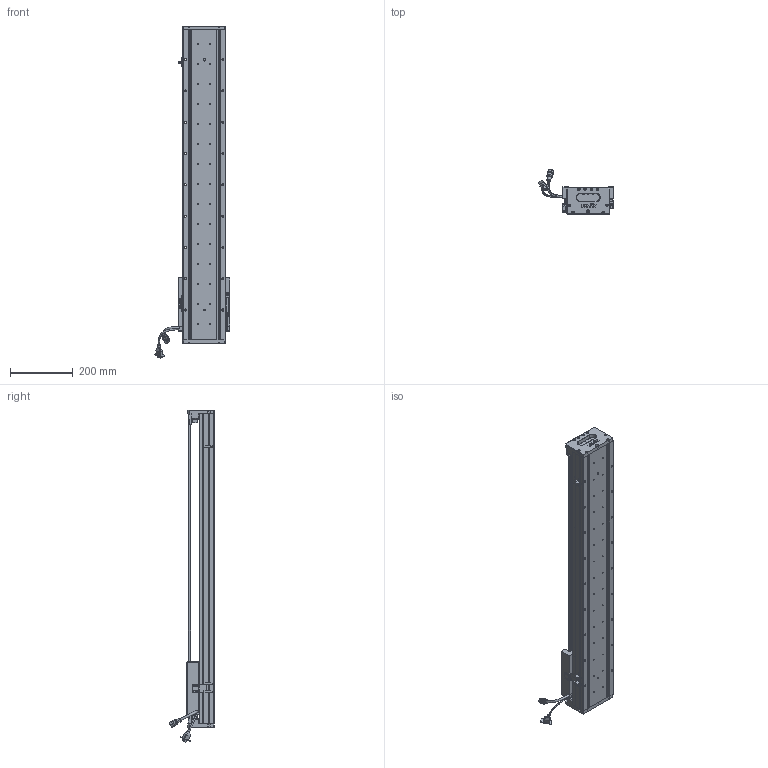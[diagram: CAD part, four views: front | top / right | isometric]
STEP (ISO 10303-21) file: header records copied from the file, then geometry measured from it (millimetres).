
FILE_DESCRIPTION (( 'STEP AP203' ), '1' );
FILE_NAME ('Z2-RY140D-1-L500-B-K.SLDASM_0750.step', '2021-05-17T07:45:20', ( '盈信电脑' ), ( '东莞市道滘镇水果街19号' ), 'SwSTEP 2.0', 'SolidWorks 2016', '' );
FILE_SCHEMA (( 'CONFIG_CONTROL_DESIGN' ));
Length unit declared in the file: millimetre
Products named in the file (36): 080黍杅芛假蚾釱21遴; COVER-Part-1; SEAL-Part-1; 140-Z-臏賑輸盄裔(21遴); SCALE-Part-1; COVER; 榋妏寠巭燃_暯_M2_2; SEAL; HARNESS-Part-2; Z2-RY140D-1-L500-B-K.SLDASM_0750; Z2-RY140-L500直线电机模组底座_0750; SCREW-M1.6-2; HOLDER0; Z2-RY140-L500詩湍100mm遵_0750; 140雄赽晤鎢ん堤盄; SCREW-M1.7; HARNESS; SCALE; SCREW-M1.6; Z-RY140詩湍奻揤裔; SCREW-M1.6-3; PSLH080_PSLF2; Z-RY140詩湍狟揤裔; SHIELDPLATE; SCREW-M1.6-1; HARNESS-Part-1; SCALE-Part-2; LABEL-Part-1; 覜茼ん672; LABEL; 140蚥薯蝶輸; SCREW-M1.7-1; Z2-RY140圉猾敕臏賑輸(21遴); PBU_SHEET; Z-RY140感应器672光电感应片; Z-140詩湍傷裔啣
Assembly tree (41 placements, depth 4):
  Z2-RY140D-1-L500-B-K.SLDASM_0750
    Z2-RY140-L500直线电机模组底座_0750
    Z-RY140感应器672光电感应片
    Z2-RY140圉猾敕臏賑輸(21遴)
    覜茼ん672  x3
    Z2-RY140-L500詩湍100mm遵_0750
    PSLH080_PSLF2
      SCALE
        SCALE-Part-1
        SCALE-Part-2
      HARNESS
        HARNESS-Part-1
        HARNESS-Part-2
      LABEL
        LABEL-Part-1
      COVER
        COVER-Part-1
      SEAL
        SEAL-Part-1
      榋妏寠巭燃_暯_M2_2
      SHIELDPLATE
      SCREW-M1.7
      SCREW-M1.7-1
      PBU_SHEET
      SCREW-M1.6
      SCREW-M1.6-1
      SCREW-M1.6-2
      SCREW-M1.6-3
      HOLDER0
    080黍杅芛假蚾釱21遴
    140-Z-臏賑輸盄裔(21遴)
    Z-140詩湍傷裔啣  x2
    Z-RY140詩湍狟揤裔  x2
    Z-RY140詩湍奻揤裔  x2
    140蚥薯蝶輸  x2
    140雄赽晤鎢ん堤盄
Bounding box: 239.84 x 143.77 x 1060.88 mm (x, y, z)
Volume: 3814177.1 mm3; surface area: 999698.2 mm2
Topology: 36 solids, 36 shells, 2902 faces, 7638 edges, 4835 vertices
Faces by surface type: cylinder 1352, plane 1136, cone 282, torus 79, bspline 53
Entity records: 84858 total; most frequent: CARTESIAN_POINT 21547, ORIENTED_EDGE 12420, DIRECTION 12274, EDGE_CURVE 6210, AXIS2_PLACEMENT_3D 4510, VERTEX_POINT 4003, LINE 3254, VECTOR 3254
